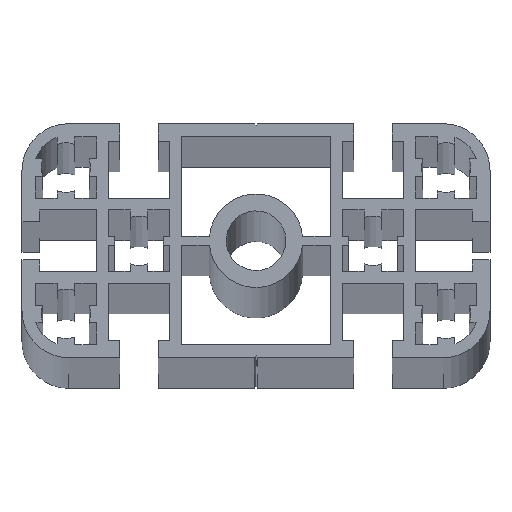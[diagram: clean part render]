
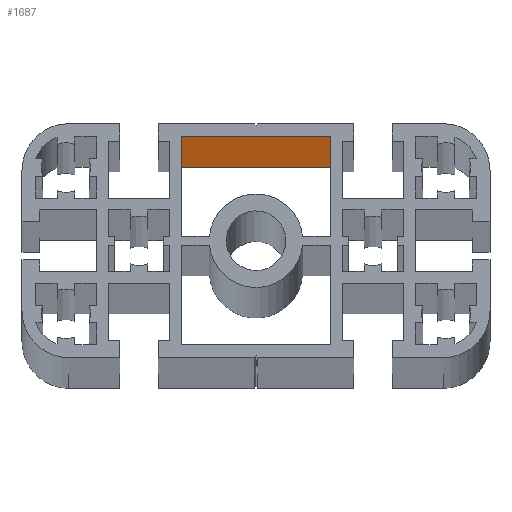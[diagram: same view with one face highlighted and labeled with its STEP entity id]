
A CAD part, top view. The second image highlights one B-rep face of the part: STEP entity #1687.
In plain terms, the highlighted planar face has unit normal (0, -1, 0).
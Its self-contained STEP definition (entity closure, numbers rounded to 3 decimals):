
#750 = VECTOR ( 'NONE', #6175, 1000. ) ;
#774 = LINE ( 'NONE', #6174, #750 ) ;
#1198 = LINE ( 'NONE', #3217, #1213 ) ;
#1207 = VECTOR ( 'NONE', #3216, 1000. ) ;
#1213 = VECTOR ( 'NONE', #3218, 1000. ) ;
#1239 = LINE ( 'NONE', #3215, #1207 ) ;
#1474 = LINE ( 'NONE', #2661, #1479 ) ;
#1479 = VECTOR ( 'NONE', #2670, 1000. ) ;
#1510 = ORIENTED_EDGE ( 'NONE', *, *, #3563, .T. ) ;
#1513 = ORIENTED_EDGE ( 'NONE', *, *, #3059, .T. ) ;
#1515 = ORIENTED_EDGE ( 'NONE', *, *, #2994, .F. ) ;
#1517 = ORIENTED_EDGE ( 'NONE', *, *, #3561, .F. ) ;
#1687 = ADVANCED_FACE ( 'NONE', ( #5527 ), #3774, .F. ) ;
#1893 = VERTEX_POINT ( 'NONE', #1914 ) ;
#1914 = CARTESIAN_POINT ( 'NONE',  ( 12.75, 17.75, 0. ) ) ;
#1957 = VERTEX_POINT ( 'NONE', #4083 ) ;
#2103 = VERTEX_POINT ( 'NONE', #6393 ) ;
#2160 = VERTEX_POINT ( 'NONE', #6450 ) ;
#2226 = EDGE_LOOP ( 'NONE', ( #1513, #1517, #1515, #1510 ) ) ;
#2661 = CARTESIAN_POINT ( 'NONE',  ( 12.75, 17.75, -3000. ) ) ;
#2670 = DIRECTION ( 'NONE',  ( -1., 0., 0. ) ) ;
#2994 = EDGE_CURVE ( 'NONE', #2103, #2160, #1474, .T. ) ;
#3059 = EDGE_CURVE ( 'NONE', #1893, #1957, #774, .T. ) ;
#3215 = CARTESIAN_POINT ( 'NONE',  ( -12.75, 17.75, -3000. ) ) ;
#3216 = DIRECTION ( 'NONE',  ( 0., 0., 1. ) ) ;
#3217 = CARTESIAN_POINT ( 'NONE',  ( 12.75, 17.75, -3000. ) ) ;
#3218 = DIRECTION ( 'NONE',  ( 0., 0., 1. ) ) ;
#3478 = AXIS2_PLACEMENT_3D ( 'NONE', #3767, #3776, #3777 ) ;
#3561 = EDGE_CURVE ( 'NONE', #2160, #1957, #1239, .T. ) ;
#3563 = EDGE_CURVE ( 'NONE', #2103, #1893, #1198, .T. ) ;
#3767 = CARTESIAN_POINT ( 'NONE',  ( 12.75, 17.75, -3000. ) ) ;
#3774 = PLANE ( 'NONE',  #3478 ) ;
#3776 = DIRECTION ( 'NONE',  ( 0., 1., 0. ) ) ;
#3777 = DIRECTION ( 'NONE',  ( 0., 0., 1. ) ) ;
#4083 = CARTESIAN_POINT ( 'NONE',  ( -12.75, 17.75, 0. ) ) ;
#5527 = FACE_OUTER_BOUND ( 'NONE', #2226, .T. ) ;
#6174 = CARTESIAN_POINT ( 'NONE',  ( 12.75, 17.75, 0. ) ) ;
#6175 = DIRECTION ( 'NONE',  ( -1., 0., 0. ) ) ;
#6393 = CARTESIAN_POINT ( 'NONE',  ( 12.75, 17.75, -3000. ) ) ;
#6450 = CARTESIAN_POINT ( 'NONE',  ( -12.75, 17.75, -3000. ) ) ;
